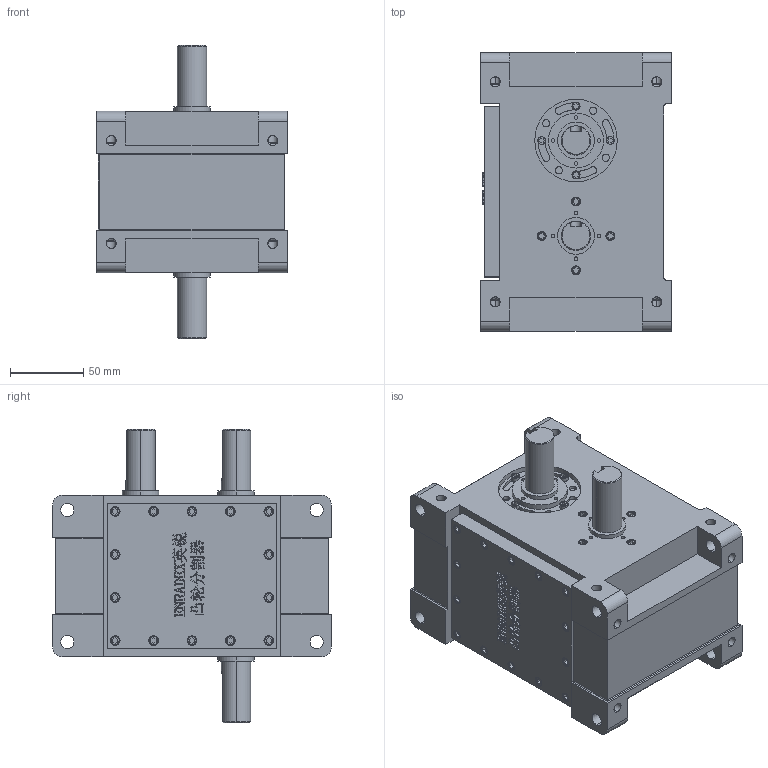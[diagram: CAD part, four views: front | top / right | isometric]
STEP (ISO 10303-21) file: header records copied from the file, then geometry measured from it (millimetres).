
FILE_DESCRIPTION (( 'STEP AP214' ), '1' );
FILE_NAME ('ER-PU65DS英锐凸轮分割器3D标准图纸(电话15062628977)A.STEP', '2022-10-27T06:57:05', ( '微软用户' ), ( '微软中国' ), 'SwSTEP 2.0', 'SolidWorks 2017', '' );
FILE_SCHEMA (( 'AUTOMOTIVE_DESIGN' ));
Length unit declared in the file: millimetre
Products named in the file (1): ER-PU65DS英锐凸轮分割器3D标准图纸(电话15062628977)A
Bounding box: 130 x 190 x 200 mm (x, y, z)
Volume: 2364630.1 mm3; surface area: 155644.7 mm2
Topology: 1 solids, 1 shells, 1498 faces, 3813 edges, 2474 vertices
Faces by surface type: plane 875, cylinder 340, bspline 212, cone 71
Entity records: 58160 total; most frequent: CARTESIAN_POINT 16726, ORIENTED_EDGE 7626, DIRECTION 6623, EDGE_CURVE 3813, LINE 2577, VECTOR 2577, VERTEX_POINT 2474, AXIS2_PLACEMENT_3D 2023
